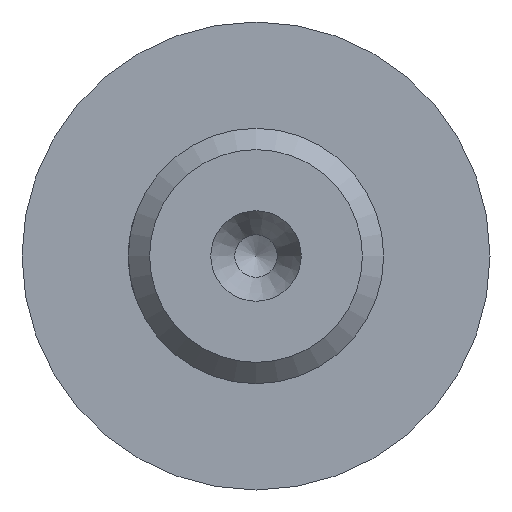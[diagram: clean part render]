
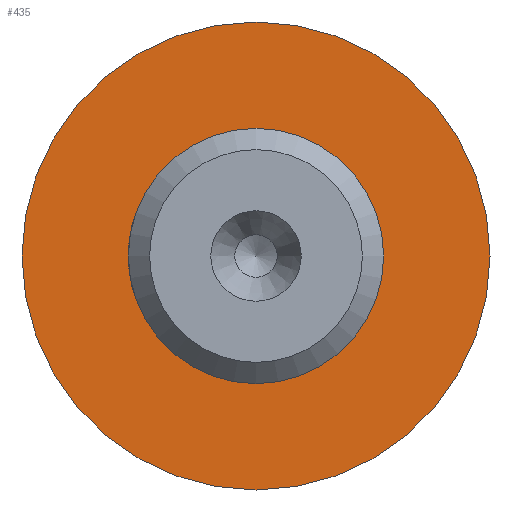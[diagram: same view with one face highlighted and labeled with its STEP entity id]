
A CAD part, left-side view. The second image highlights one B-rep face of the part: STEP entity #435.
In plain terms, the highlighted planar face has unit normal (-1, 0, 0).
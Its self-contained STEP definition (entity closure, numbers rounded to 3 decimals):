
#26=FACE_BOUND('',#83,.T.);
#38=PLANE('',#493);
#53=FACE_OUTER_BOUND('',#82,.T.);
#82=EDGE_LOOP('',(#355));
#83=EDGE_LOOP('',(#356));
#171=CIRCLE('',#492,6.);
#172=CIRCLE('',#494,11.);
#215=VERTEX_POINT('',#812);
#216=VERTEX_POINT('',#816);
#266=EDGE_CURVE('',#215,#215,#171,.T.);
#268=EDGE_CURVE('',#216,#216,#172,.T.);
#355=ORIENTED_EDGE('',*,*,#268,.F.);
#356=ORIENTED_EDGE('',*,*,#266,.T.);
#435=ADVANCED_FACE('',(#53,#26),#38,.T.);
#492=AXIS2_PLACEMENT_3D('',#813,#581,#582);
#493=AXIS2_PLACEMENT_3D('',#815,#584,#585);
#494=AXIS2_PLACEMENT_3D('',#817,#586,#587);
#581=DIRECTION('center_axis',(1.,0.,0.));
#582=DIRECTION('ref_axis',(0.,0.,-1.));
#584=DIRECTION('center_axis',(-1.,0.,0.));
#585=DIRECTION('ref_axis',(0.,0.,1.));
#586=DIRECTION('center_axis',(1.,0.,0.));
#587=DIRECTION('ref_axis',(0.,0.,-1.));
#812=CARTESIAN_POINT('',(22.5,-6.,0.));
#813=CARTESIAN_POINT('Origin',(22.5,0.,0.));
#815=CARTESIAN_POINT('Origin',(22.5,11.,0.));
#816=CARTESIAN_POINT('',(22.5,-11.,0.));
#817=CARTESIAN_POINT('Origin',(22.5,0.,0.));
